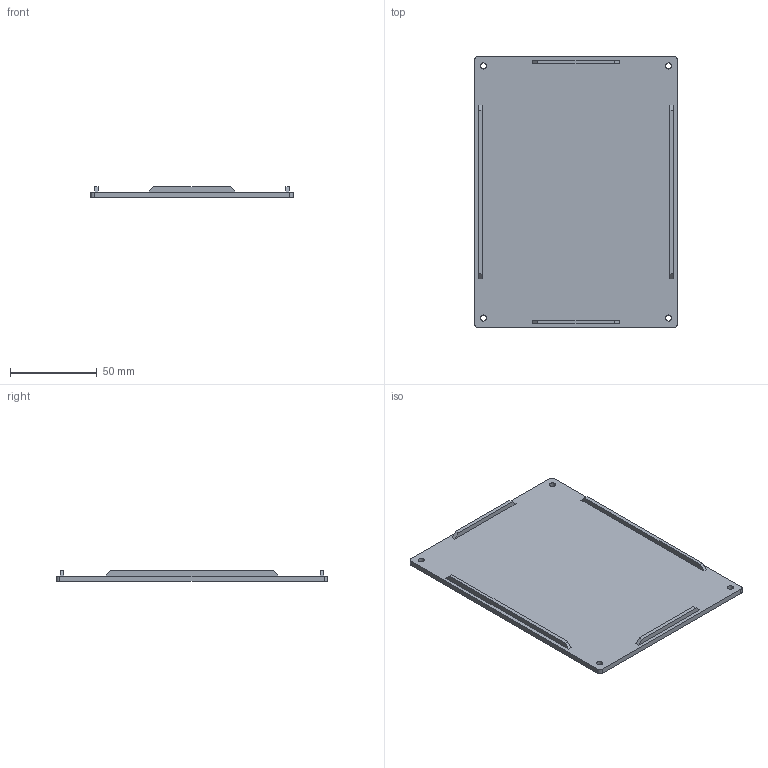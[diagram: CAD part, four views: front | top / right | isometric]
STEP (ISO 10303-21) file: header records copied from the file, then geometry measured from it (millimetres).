
FILE_DESCRIPTION(/* description */ (''),/* implementation_level */ '2;1');
FILE_NAME(/* name */ 'D:\3D печать\Мои проекты\Archy MK 2\STEP\крышка бокса платы.stp',/* time_stamp */ '2019-03-20T22:14:36+06:00',/* author */ ('Пользователь'),/* organization */ (''),/* preprocessor_version */ 'ST-DEVELOPER v16.5',/* originating_system */ 'Autodesk Inventor 2017',/* authorisation */ '');
FILE_SCHEMA (('AUTOMOTIVE_DESIGN { 1 0 10303 214 3 1 1 }'));
Length unit declared in the file: millimetre
Products named in the file (1): крышка \X2\0431043E043A04410430
\X0\ платы
Bounding box: 116.5 x 156 x 6 mm (x, y, z)
Volume: 56124.2 mm3; surface area: 39768.7 mm2
Topology: 1 solids, 1 shells, 34 faces, 91 edges, 70 vertices
Faces by surface type: plane 26, cylinder 8
Full cylindrical faces by diameter (mm): 3.5 x4
Entity records: 1097 total; most frequent: CARTESIAN_POINT 192, DIRECTION 173, ORIENTED_EDGE 160, EDGE_CURVE 80, LINE 71, VECTOR 71, VERTEX_POINT 56, AXIS2_PLACEMENT_3D 51
